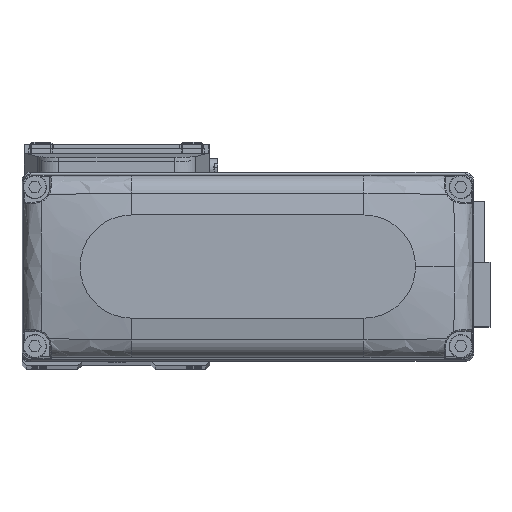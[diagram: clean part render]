
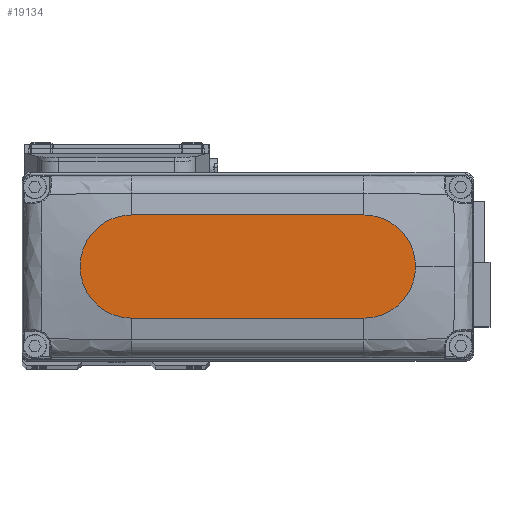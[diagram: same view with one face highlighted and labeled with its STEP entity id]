
A CAD part, top view. The second image highlights one B-rep face of the part: STEP entity #19134.
In plain terms, the highlighted planar face has unit normal (0, 0, 1).
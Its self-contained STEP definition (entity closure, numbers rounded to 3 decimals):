
#139 = EDGE_LOOP ( 'NONE', ( #2807, #33803, #20473, #32720, #35317 ) ) ;
#955 = CIRCLE ( 'NONE', #6085, 12. ) ;
#1491 = PLANE ( 'NONE',  #38115 ) ;
#1831 = DIRECTION ( 'NONE',  ( 1., 0., 0. ) ) ;
#2553 = CARTESIAN_POINT ( 'NONE',  ( -27., 12., 25. ) ) ;
#2807 = ORIENTED_EDGE ( 'NONE', *, *, #20618, .T. ) ;
#3094 = VERTEX_POINT ( 'NONE', #4837 ) ;
#3259 = DIRECTION ( 'NONE',  ( 0., 0., 1. ) ) ;
#4837 = CARTESIAN_POINT ( 'NONE',  ( 27., -12., 25. ) ) ;
#6085 = AXIS2_PLACEMENT_3D ( 'NONE', #17093, #29341, #1831 ) ;
#8411 = LINE ( 'NONE', #20669, #36755 ) ;
#8835 = CARTESIAN_POINT ( 'NONE',  ( -27., -12., 25. ) ) ;
#9860 = CIRCLE ( 'NONE', #32320, 12. ) ;
#9894 = DIRECTION ( 'NONE',  ( 1., 0., 0. ) ) ;
#12175 = VERTEX_POINT ( 'NONE', #8835 ) ;
#13744 = CARTESIAN_POINT ( 'NONE',  ( 0., 0., 25. ) ) ;
#14800 = DIRECTION ( 'NONE',  ( -1., 0., 0. ) ) ;
#15032 = CIRCLE ( 'NONE', #37473, 12. ) ;
#15504 = DIRECTION ( 'NONE',  ( 1., 0., 0. ) ) ;
#16354 = CARTESIAN_POINT ( 'NONE',  ( 27., 12., 25. ) ) ;
#17093 = CARTESIAN_POINT ( 'NONE',  ( 27., 0., 25. ) ) ;
#18096 = EDGE_CURVE ( 'NONE', #12175, #3094, #8411, .T. ) ;
#19134 = ADVANCED_FACE ( 'NONE', ( #28996 ), #1491, .T. ) ;
#20473 = ORIENTED_EDGE ( 'NONE', *, *, #18096, .T. ) ;
#20618 = EDGE_CURVE ( 'NONE', #39232, #30792, #30070, .T. ) ;
#20669 = CARTESIAN_POINT ( 'NONE',  ( -27., -12., 25. ) ) ;
#20765 = EDGE_CURVE ( 'NONE', #30792, #12175, #15032, .T. ) ;
#21310 = EDGE_CURVE ( 'NONE', #3094, #33942, #955, .T. ) ;
#24618 = CARTESIAN_POINT ( 'NONE',  ( -27., 0., 25. ) ) ;
#25142 = CARTESIAN_POINT ( 'NONE',  ( 39., 0., 25. ) ) ;
#26022 = DIRECTION ( 'NONE',  ( 0., 0., 1. ) ) ;
#28996 = FACE_OUTER_BOUND ( 'NONE', #139, .T. ) ;
#29341 = DIRECTION ( 'NONE',  ( 0., 0., 1. ) ) ;
#30070 = LINE ( 'NONE', #2553, #36181 ) ;
#30768 = CARTESIAN_POINT ( 'NONE',  ( 27., 0., 25. ) ) ;
#30792 = VERTEX_POINT ( 'NONE', #32042 ) ;
#32042 = CARTESIAN_POINT ( 'NONE',  ( -27., 12., 25. ) ) ;
#32320 = AXIS2_PLACEMENT_3D ( 'NONE', #30768, #3259, #15504 ) ;
#32720 = ORIENTED_EDGE ( 'NONE', *, *, #21310, .T. ) ;
#32896 = DIRECTION ( 'NONE',  ( 1., 0., 0. ) ) ;
#33803 = ORIENTED_EDGE ( 'NONE', *, *, #20765, .T. ) ;
#33942 = VERTEX_POINT ( 'NONE', #25142 ) ;
#35317 = ORIENTED_EDGE ( 'NONE', *, *, #35767, .T. ) ;
#35767 = EDGE_CURVE ( 'NONE', #33942, #39232, #9860, .T. ) ;
#36181 = VECTOR ( 'NONE', #14800, 1000. ) ;
#36755 = VECTOR ( 'NONE', #32896, 1000. ) ;
#36872 = DIRECTION ( 'NONE',  ( 0., 0., 1. ) ) ;
#37473 = AXIS2_PLACEMENT_3D ( 'NONE', #24618, #36872, #9894 ) ;
#38115 = AXIS2_PLACEMENT_3D ( 'NONE', #13744, #26022, #38268 ) ;
#38268 = DIRECTION ( 'NONE',  ( 1., 0., 0. ) ) ;
#39232 = VERTEX_POINT ( 'NONE', #16354 ) ;
